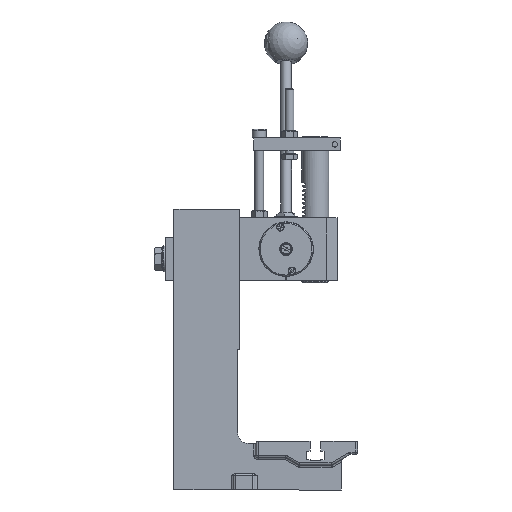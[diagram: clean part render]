
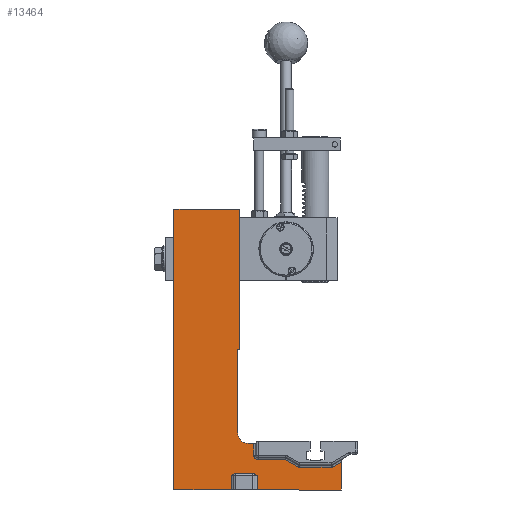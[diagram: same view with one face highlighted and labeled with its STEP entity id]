
A CAD part, left-side view. The second image highlights one B-rep face of the part: STEP entity #13464.
In plain terms, the highlighted planar face has unit normal (-1, 0, 0) as drawn and (0, 0, 1) by its records, which use the part's own axes.
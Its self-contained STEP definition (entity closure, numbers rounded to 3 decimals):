
#176=B_SPLINE_CURVE_WITH_KNOTS('',3,(#21088,#21089,#21090,#21091,#21092,
#21093,#21094,#21095,#21096,#21097),.UNSPECIFIED.,.F.,.F.,(4,2,2,2,4),(1.011,
1.088,1.164,1.282,1.399),
 .UNSPECIFIED.);
#177=B_SPLINE_CURVE_WITH_KNOTS('',3,(#21119,#21120,#21121,#21122,#21123,
#21124,#21125,#21126,#21127,#21128),.UNSPECIFIED.,.F.,.F.,(4,2,2,2,4),(0.,
0.118,0.235,0.312,0.388),
 .UNSPECIFIED.);
#786=PLANE('',#14674);
#1482=FACE_OUTER_BOUND('',#2251,.T.);
#2251=EDGE_LOOP('',(#9752,#9753,#9754,#9755,#9756,#9757,#9758,#9759,#9760,
#9761,#9762,#9763,#9764,#9765,#9766,#9767,#9768,#9769,#9770,#9771,#9772));
#2983=LINE('',#20269,#4037);
#3051=LINE('',#20605,#4105);
#3053=LINE('',#20609,#4107);
#3064=LINE('',#20636,#4118);
#3067=LINE('',#20643,#4121);
#3068=LINE('',#20652,#4122);
#3179=LINE('',#21140,#4233);
#3188=LINE('',#21163,#4242);
#3189=LINE('',#21167,#4243);
#3190=LINE('',#21171,#4244);
#3191=LINE('',#21173,#4245);
#3192=LINE('',#21175,#4246);
#3193=LINE('',#21177,#4247);
#3194=LINE('',#21179,#4248);
#3195=LINE('',#21180,#4249);
#3196=LINE('',#21181,#4250);
#3197=LINE('',#21182,#4251);
#4037=VECTOR('',#16045,10.);
#4105=VECTOR('',#16325,10.);
#4107=VECTOR('',#16331,10.);
#4118=VECTOR('',#16362,10.);
#4121=VECTOR('',#16369,10.);
#4122=VECTOR('',#16382,10.);
#4233=VECTOR('',#16769,10.);
#4242=VECTOR('',#16794,10.);
#4243=VECTOR('',#16799,10.);
#4244=VECTOR('',#16802,10.);
#4245=VECTOR('',#16803,10.);
#4246=VECTOR('',#16804,10.);
#4247=VECTOR('',#16805,10.);
#4248=VECTOR('',#16806,10.);
#4249=VECTOR('',#16807,10.);
#4250=VECTOR('',#16808,10.);
#4251=VECTOR('',#16809,10.);
#5153=CIRCLE('',#14523,4.);
#5220=CIRCLE('',#14675,10.);
#5824=VERTEX_POINT('',#20266);
#5825=VERTEX_POINT('',#20268);
#5881=VERTEX_POINT('',#20470);
#5890=VERTEX_POINT('',#20513);
#5899=VERTEX_POINT('',#20566);
#5915=VERTEX_POINT('',#20641);
#5916=VERTEX_POINT('',#20645);
#5917=VERTEX_POINT('',#20650);
#6025=VERTEX_POINT('',#21086);
#6026=VERTEX_POINT('',#21087);
#6033=VERTEX_POINT('',#21117);
#6034=VERTEX_POINT('',#21118);
#6036=VERTEX_POINT('',#21138);
#6042=VERTEX_POINT('',#21162);
#6043=VERTEX_POINT('',#21166);
#6044=VERTEX_POINT('',#21168);
#6045=VERTEX_POINT('',#21170);
#6046=VERTEX_POINT('',#21172);
#6047=VERTEX_POINT('',#21174);
#6048=VERTEX_POINT('',#21176);
#6049=VERTEX_POINT('',#21178);
#7145=EDGE_CURVE('',#5824,#5825,#2983,.T.);
#7276=EDGE_CURVE('',#5890,#5824,#3051,.T.);
#7278=EDGE_CURVE('',#5899,#5890,#3053,.T.);
#7292=EDGE_CURVE('',#5881,#5899,#3064,.T.);
#7296=EDGE_CURVE('',#5915,#5881,#3067,.T.);
#7298=EDGE_CURVE('',#5916,#5915,#5153,.T.);
#7301=EDGE_CURVE('',#5917,#5916,#3068,.T.);
#7468=EDGE_CURVE('',#6025,#6026,#176,.F.);
#7479=EDGE_CURVE('',#6033,#6034,#177,.F.);
#7486=EDGE_CURVE('',#6036,#6025,#3179,.T.);
#7497=EDGE_CURVE('',#6034,#6042,#3188,.T.);
#7499=EDGE_CURVE('',#6043,#5917,#3189,.T.);
#7500=EDGE_CURVE('',#6044,#6043,#5220,.T.);
#7501=EDGE_CURVE('',#6045,#6044,#3190,.T.);
#7502=EDGE_CURVE('',#6046,#6045,#3191,.T.);
#7503=EDGE_CURVE('',#6047,#6046,#3192,.T.);
#7504=EDGE_CURVE('',#6048,#6047,#3193,.T.);
#7505=EDGE_CURVE('',#6049,#6048,#3194,.T.);
#7506=EDGE_CURVE('',#6042,#6049,#3195,.T.);
#7507=EDGE_CURVE('',#6033,#6026,#3196,.T.);
#7508=EDGE_CURVE('',#5825,#6036,#3197,.T.);
#9752=ORIENTED_EDGE('',*,*,#7301,.F.);
#9753=ORIENTED_EDGE('',*,*,#7499,.F.);
#9754=ORIENTED_EDGE('',*,*,#7500,.F.);
#9755=ORIENTED_EDGE('',*,*,#7501,.F.);
#9756=ORIENTED_EDGE('',*,*,#7502,.F.);
#9757=ORIENTED_EDGE('',*,*,#7503,.F.);
#9758=ORIENTED_EDGE('',*,*,#7504,.F.);
#9759=ORIENTED_EDGE('',*,*,#7505,.F.);
#9760=ORIENTED_EDGE('',*,*,#7506,.F.);
#9761=ORIENTED_EDGE('',*,*,#7497,.F.);
#9762=ORIENTED_EDGE('',*,*,#7479,.F.);
#9763=ORIENTED_EDGE('',*,*,#7507,.T.);
#9764=ORIENTED_EDGE('',*,*,#7468,.F.);
#9765=ORIENTED_EDGE('',*,*,#7486,.F.);
#9766=ORIENTED_EDGE('',*,*,#7508,.F.);
#9767=ORIENTED_EDGE('',*,*,#7145,.F.);
#9768=ORIENTED_EDGE('',*,*,#7276,.F.);
#9769=ORIENTED_EDGE('',*,*,#7278,.F.);
#9770=ORIENTED_EDGE('',*,*,#7292,.F.);
#9771=ORIENTED_EDGE('',*,*,#7296,.F.);
#9772=ORIENTED_EDGE('',*,*,#7298,.F.);
#13464=ADVANCED_FACE('',(#1482),#786,.T.);
#14523=AXIS2_PLACEMENT_3D('',#20647,#16374,#16375);
#14674=AXIS2_PLACEMENT_3D('',#21165,#16797,#16798);
#14675=AXIS2_PLACEMENT_3D('',#21169,#16800,#16801);
#16045=DIRECTION('',(0.,-1.,0.));
#16325=DIRECTION('',(0.866,0.5,0.));
#16331=DIRECTION('',(1.,0.,0.));
#16362=DIRECTION('',(0.866,-0.5,0.));
#16369=DIRECTION('',(1.,0.,0.));
#16374=DIRECTION('center_axis',(0.,0.,1.));
#16375=DIRECTION('ref_axis',(-0.707,-0.707,0.));
#16382=DIRECTION('',(0.,-1.,0.));
#16769=DIRECTION('',(0.,1.,0.));
#16794=DIRECTION('',(0.,-1.,0.));
#16797=DIRECTION('center_axis',(0.,0.,1.));
#16798=DIRECTION('ref_axis',(1.,0.,0.));
#16799=DIRECTION('',(1.,0.,0.));
#16800=DIRECTION('center_axis',(0.,0.,1.));
#16801=DIRECTION('ref_axis',(-1.,0.,0.));
#16802=DIRECTION('',(0.,-1.,0.));
#16803=DIRECTION('',(-1.,0.,0.));
#16804=DIRECTION('',(0.,-1.,0.));
#16805=DIRECTION('',(1.,0.,0.));
#16806=DIRECTION('',(0.,1.,0.));
#16807=DIRECTION('',(-1.,0.,0.));
#16808=DIRECTION('',(1.,0.,0.));
#16809=DIRECTION('',(-1.,0.,0.));
#20266=CARTESIAN_POINT('',(155.,25.887,25.));
#20268=CARTESIAN_POINT('',(155.,0.,25.));
#20269=CARTESIAN_POINT('',(155.,28.196,25.));
#20470=CARTESIAN_POINT('',(103.34,28.,25.));
#20513=CARTESIAN_POINT('',(146.536,21.,25.));
#20566=CARTESIAN_POINT('',(115.464,21.,25.));
#20605=CARTESIAN_POINT('',(137.776,15.943,25.));
#20609=CARTESIAN_POINT('',(98.769,21.,25.));
#20636=CARTESIAN_POINT('',(73.288,45.351,25.));
#20641=CARTESIAN_POINT('',(78.,28.,25.));
#20643=CARTESIAN_POINT('',(77.707,28.,25.));
#20645=CARTESIAN_POINT('',(74.,32.,25.));
#20647=CARTESIAN_POINT('Origin',(78.,32.,25.));
#20650=CARTESIAN_POINT('',(74.,43.,25.));
#20652=CARTESIAN_POINT('',(74.,68.005,25.));
#21086=CARTESIAN_POINT('',(77.,13.,25.));
#21087=CARTESIAN_POINT('',(73.536,15.,25.));
#21088=CARTESIAN_POINT('Ctrl Pts',(73.536,15.,25.));
#21089=CARTESIAN_POINT('Ctrl Pts',(73.791,15.,25.));
#21090=CARTESIAN_POINT('Ctrl Pts',(74.066,14.961,25.));
#21091=CARTESIAN_POINT('Ctrl Pts',(74.598,14.811,25.));
#21092=CARTESIAN_POINT('Ctrl Pts',(74.855,14.7,25.));
#21093=CARTESIAN_POINT('Ctrl Pts',(75.424,14.394,25.));
#21094=CARTESIAN_POINT('Ctrl Pts',(75.77,14.142,25.));
#21095=CARTESIAN_POINT('Ctrl Pts',(76.418,13.583,25.));
#21096=CARTESIAN_POINT('Ctrl Pts',(76.723,13.277,25.));
#21097=CARTESIAN_POINT('Ctrl Pts',(77.,13.,25.));
#21117=CARTESIAN_POINT('',(56.464,15.,25.));
#21118=CARTESIAN_POINT('',(53.,13.,25.));
#21119=CARTESIAN_POINT('Ctrl Pts',(53.,13.,25.));
#21120=CARTESIAN_POINT('Ctrl Pts',(53.277,13.277,25.));
#21121=CARTESIAN_POINT('Ctrl Pts',(53.582,13.583,25.));
#21122=CARTESIAN_POINT('Ctrl Pts',(54.23,14.142,25.));
#21123=CARTESIAN_POINT('Ctrl Pts',(54.576,14.394,25.));
#21124=CARTESIAN_POINT('Ctrl Pts',(55.145,14.7,25.));
#21125=CARTESIAN_POINT('Ctrl Pts',(55.402,14.811,25.));
#21126=CARTESIAN_POINT('Ctrl Pts',(55.934,14.961,25.));
#21127=CARTESIAN_POINT('Ctrl Pts',(56.209,15.,25.));
#21128=CARTESIAN_POINT('Ctrl Pts',(56.464,15.,25.));
#21138=CARTESIAN_POINT('',(77.,0.,25.));
#21140=CARTESIAN_POINT('',(77.,52.005,25.));
#21162=CARTESIAN_POINT('',(53.,0.,25.));
#21163=CARTESIAN_POINT('',(53.,52.005,25.));
#21165=CARTESIAN_POINT('Origin',(51.539,104.01,25.));
#21166=CARTESIAN_POINT('',(69.,43.,25.));
#21167=CARTESIAN_POINT('',(69.,43.,25.));
#21168=CARTESIAN_POINT('',(59.,53.,25.));
#21169=CARTESIAN_POINT('Origin',(69.,53.,25.));
#21170=CARTESIAN_POINT('',(59.,130.,25.));
#21171=CARTESIAN_POINT('',(59.,130.,25.));
#21172=CARTESIAN_POINT('',(61.,130.,25.));
#21173=CARTESIAN_POINT('',(61.,130.,25.));
#21174=CARTESIAN_POINT('',(61.,260.,25.));
#21175=CARTESIAN_POINT('',(61.,260.,25.));
#21176=CARTESIAN_POINT('',(0.,260.,25.));
#21177=CARTESIAN_POINT('',(0.,260.,25.));
#21178=CARTESIAN_POINT('',(0.,0.,25.));
#21179=CARTESIAN_POINT('',(0.,0.,25.));
#21180=CARTESIAN_POINT('',(155.,0.,25.));
#21181=CARTESIAN_POINT('',(58.269,15.,25.));
#21182=CARTESIAN_POINT('',(155.,0.,25.));
